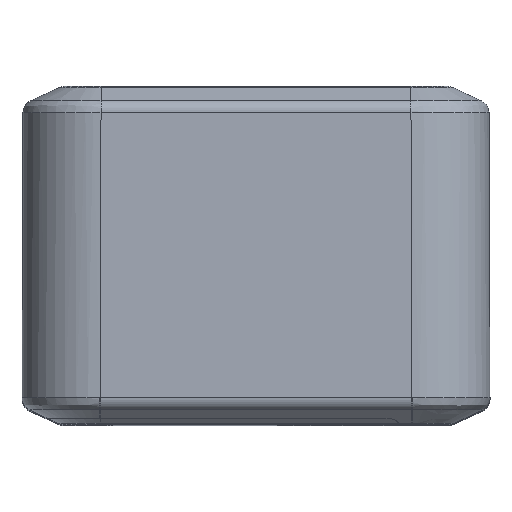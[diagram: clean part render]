
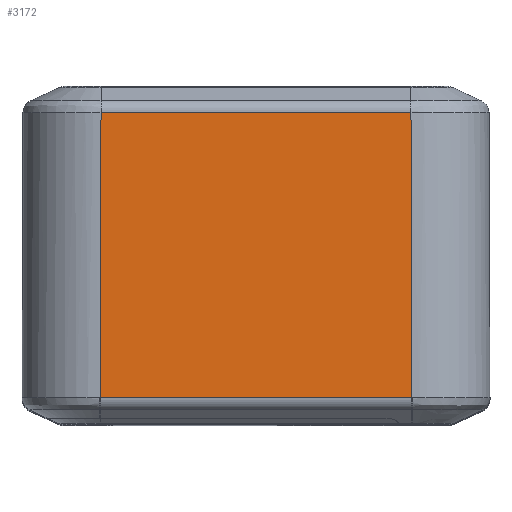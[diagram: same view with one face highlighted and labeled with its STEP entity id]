
A CAD part, top view. The second image highlights one B-rep face of the part: STEP entity #3172.
In plain terms, the highlighted planar face has unit normal (0, 0.004, 1).
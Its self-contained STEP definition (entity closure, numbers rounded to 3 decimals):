
#1958=CARTESIAN_POINT('',(-5.996,1.018,18.496));
#1959=VERTEX_POINT('',#1958);
#2191=CARTESIAN_POINT('',(5.996,1.018,18.496));
#2192=VERTEX_POINT('',#2191);
#2200=CARTESIAN_POINT('',(5.996,1.018,18.496));
#2201=DIRECTION('',(-1.0,0.0,0.0));
#2202=VECTOR('',#2201,11.993);
#2203=LINE('',#2200,#2202);
#2204=EDGE_CURVE('',#2192,#1959,#2203,.T.);
#3094=CARTESIAN_POINT('',(-5.958,11.982,18.458));
#3095=VERTEX_POINT('',#3094);
#3096=CARTESIAN_POINT('',(-5.996,1.018,18.496));
#3097=DIRECTION('',(0.003,1.,-0.003));
#3098=VECTOR('',#3097,10.964);
#3099=LINE('',#3096,#3098);
#3100=EDGE_CURVE('',#1959,#3095,#3099,.T.);
#3113=CARTESIAN_POINT('',(9.0,0.0,18.5));
#3114=DIRECTION('',(0.0,0.003,1.));
#3115=DIRECTION('',(1.0,0.0,0.0));
#3116=AXIS2_PLACEMENT_3D('',#3113,#3114,#3115);
#3117=PLANE('',#3116);
#3118=ORIENTED_EDGE('',*,*,#3100,.F.);
#3119=ORIENTED_EDGE('',*,*,#2204,.F.);
#3120=CARTESIAN_POINT('',(5.958,11.982,18.458));
#3121=VERTEX_POINT('',#3120);
#3122=CARTESIAN_POINT('',(5.958,11.982,18.458));
#3123=DIRECTION('',(0.003,-1.,0.003));
#3124=VECTOR('',#3123,10.964);
#3125=LINE('',#3122,#3124);
#3126=EDGE_CURVE('',#3121,#2192,#3125,.T.);
#3127=ORIENTED_EDGE('',*,*,#3126,.F.);
#3128=CARTESIAN_POINT('',(5.957,11.982,18.458));
#3129=VERTEX_POINT('',#3128);
#3130=CARTESIAN_POINT('',(5.957,11.982,18.458));
#3131=CARTESIAN_POINT('',(5.957,11.982,18.458));
#3132=CARTESIAN_POINT('',(5.958,11.982,18.458));
#3133=CARTESIAN_POINT('',(5.958,11.982,18.458));
#3134=B_SPLINE_CURVE_WITH_KNOTS('',3,(#3130,#3131,#3132,#3133),.UNSPECIFIED.,.F.,.U.,(4,4),(0.,0.),.UNSPECIFIED.);
#3135=EDGE_CURVE('',#3129,#3121,#3134,.T.);
#3136=ORIENTED_EDGE('',*,*,#3135,.F.);
#3137=CARTESIAN_POINT('',(5.955,11.982,18.458));
#3138=VERTEX_POINT('',#3137);
#3139=CARTESIAN_POINT('',(5.955,11.982,18.458));
#3140=CARTESIAN_POINT('',(5.955,11.982,18.458));
#3141=CARTESIAN_POINT('',(5.956,11.982,18.458));
#3142=CARTESIAN_POINT('',(5.957,11.982,18.458));
#3143=B_SPLINE_CURVE_WITH_KNOTS('',3,(#3139,#3140,#3141,#3142),.UNSPECIFIED.,.F.,.U.,(4,4),(0.0,0.),.UNSPECIFIED.);
#3144=EDGE_CURVE('',#3138,#3129,#3143,.T.);
#3145=ORIENTED_EDGE('',*,*,#3144,.F.);
#3146=CARTESIAN_POINT('',(-5.955,11.982,18.458));
#3147=VERTEX_POINT('',#3146);
#3148=CARTESIAN_POINT('',(-5.955,11.982,18.458));
#3149=DIRECTION('',(1.0,0.0,0.0));
#3150=VECTOR('',#3149,11.909);
#3151=LINE('',#3148,#3150);
#3152=EDGE_CURVE('',#3147,#3138,#3151,.T.);
#3153=ORIENTED_EDGE('',*,*,#3152,.F.);
#3154=CARTESIAN_POINT('',(-5.957,11.982,18.458));
#3155=VERTEX_POINT('',#3154);
#3156=CARTESIAN_POINT('',(-5.957,11.982,18.458));
#3157=CARTESIAN_POINT('',(-5.956,11.982,18.458));
#3158=CARTESIAN_POINT('',(-5.955,11.982,18.458));
#3159=CARTESIAN_POINT('',(-5.955,11.982,18.458));
#3160=B_SPLINE_CURVE_WITH_KNOTS('',3,(#3156,#3157,#3158,#3159),.UNSPECIFIED.,.F.,.U.,(4,4),(0.0,0.),.UNSPECIFIED.);
#3161=EDGE_CURVE('',#3155,#3147,#3160,.T.);
#3162=ORIENTED_EDGE('',*,*,#3161,.F.);
#3163=CARTESIAN_POINT('',(-5.958,11.982,18.458));
#3164=CARTESIAN_POINT('',(-5.958,11.982,18.458));
#3165=CARTESIAN_POINT('',(-5.957,11.982,18.458));
#3166=CARTESIAN_POINT('',(-5.957,11.982,18.458));
#3167=B_SPLINE_CURVE_WITH_KNOTS('',3,(#3163,#3164,#3165,#3166),.UNSPECIFIED.,.F.,.U.,(4,4),(0.0,0.),.UNSPECIFIED.);
#3168=EDGE_CURVE('',#3095,#3155,#3167,.T.);
#3169=ORIENTED_EDGE('',*,*,#3168,.F.);
#3170=EDGE_LOOP('',(#3118,#3119,#3127,#3136,#3145,#3153,#3162,#3169));
#3171=FACE_OUTER_BOUND('',#3170,.T.);
#3172=ADVANCED_FACE('',(#3171),#3117,.T.);
